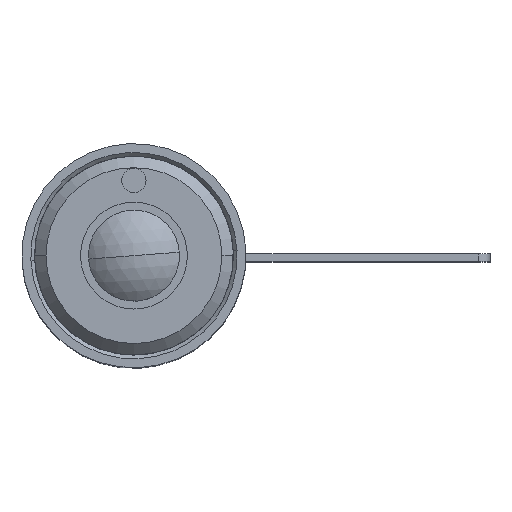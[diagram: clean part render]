
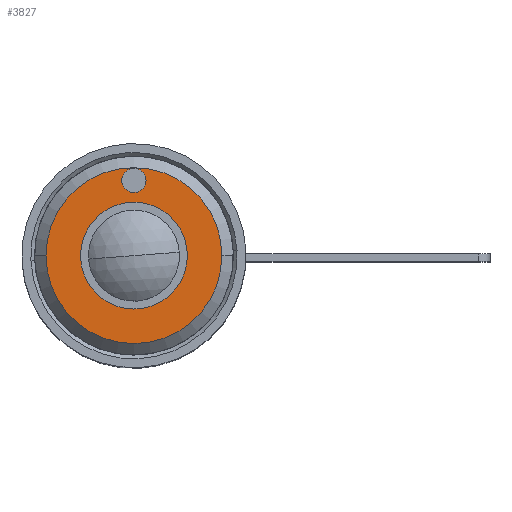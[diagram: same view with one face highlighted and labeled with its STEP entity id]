
A CAD part, top view. The second image highlights one B-rep face of the part: STEP entity #3827.
In plain terms, the highlighted planar face has unit normal (0, 0, 1).
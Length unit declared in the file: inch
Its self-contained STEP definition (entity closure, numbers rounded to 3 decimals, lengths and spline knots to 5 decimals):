
#133 = CARTESIAN_POINT ( 'NONE',  ( -0.09189, -0.00784, 0.26632 ) ) ;
#366 = DIRECTION ( 'NONE',  ( 1., 0., 0. ) ) ;
#486 = AXIS2_PLACEMENT_3D ( 'NONE', #7068, #6470, #4168 ) ;
#561 = AXIS2_PLACEMENT_3D ( 'NONE', #133, #2948, #2347 ) ;
#729 = ORIENTED_EDGE ( 'NONE', *, *, #5338, .T. ) ;
#786 = ORIENTED_EDGE ( 'NONE', *, *, #8636, .T. ) ;
#979 = CARTESIAN_POINT ( 'NONE',  ( -0.09189, -0.00784, 0.26632 ) ) ;
#1018 = CARTESIAN_POINT ( 'NONE',  ( -0.09189, 0.18716, 0.26632 ) ) ;
#1083 = CARTESIAN_POINT ( 'NONE',  ( -0.06039, 0.18716, 0.26632 ) ) ;
#1087 = EDGE_CURVE ( 'NONE', #1424, #1233, #5422, .T. ) ;
#1233 = VERTEX_POINT ( 'NONE', #7504 ) ;
#1343 = AXIS2_PLACEMENT_3D ( 'NONE', #2327, #8074, #3120 ) ;
#1409 = DIRECTION ( 'NONE',  ( 1., 0., 0. ) ) ;
#1424 = VERTEX_POINT ( 'NONE', #1083 ) ;
#1595 = ORIENTED_EDGE ( 'NONE', *, *, #1087, .F. ) ;
#1872 = CIRCLE ( 'NONE', #6929, 0.1385 ) ;
#1936 = DIRECTION ( 'NONE',  ( 1., 0., 0. ) ) ;
#2260 = EDGE_LOOP ( 'NONE', ( #1595, #2395 ) ) ;
#2327 = CARTESIAN_POINT ( 'NONE',  ( -0.09189, 0.18716, 0.26632 ) ) ;
#2347 = DIRECTION ( 'NONE',  ( 1., 0., 0. ) ) ;
#2395 = ORIENTED_EDGE ( 'NONE', *, *, #7958, .F. ) ;
#2679 = FACE_BOUND ( 'NONE', #3020, .T. ) ;
#2785 = CARTESIAN_POINT ( 'NONE',  ( -0.09189, -0.00784, 0.26632 ) ) ;
#2846 = AXIS2_PLACEMENT_3D ( 'NONE', #979, #3155, #8765 ) ;
#2944 = ORIENTED_EDGE ( 'NONE', *, *, #3706, .F. ) ;
#2948 = DIRECTION ( 'NONE',  ( 0., 0., 1. ) ) ;
#3020 = EDGE_LOOP ( 'NONE', ( #6932, #2944 ) ) ;
#3120 = DIRECTION ( 'NONE',  ( 1., 0., 0. ) ) ;
#3155 = DIRECTION ( 'NONE',  ( 0., 0., 1. ) ) ;
#3159 = CIRCLE ( 'NONE', #2846, 0.228 ) ;
#3178 = AXIS2_PLACEMENT_3D ( 'NONE', #6191, #5491, #1936 ) ;
#3706 = EDGE_CURVE ( 'NONE', #3871, #6637, #1872, .T. ) ;
#3827 = ADVANCED_FACE ( 'NONE', ( #4034, #9086, #2679 ), #4692, .T. ) ;
#3871 = VERTEX_POINT ( 'NONE', #8903 ) ;
#3908 = CARTESIAN_POINT ( 'NONE',  ( 0.13611, -0.00784, 0.26632 ) ) ;
#3919 = EDGE_CURVE ( 'NONE', #6637, #3871, #8530, .T. ) ;
#4034 = FACE_BOUND ( 'NONE', #2260, .T. ) ;
#4168 = DIRECTION ( 'NONE',  ( 1., 0., 0. ) ) ;
#4211 = AXIS2_PLACEMENT_3D ( 'NONE', #1018, #6740, #366 ) ;
#4295 = CARTESIAN_POINT ( 'NONE',  ( 0.04661, -0.00784, 0.26632 ) ) ;
#4460 = CIRCLE ( 'NONE', #1343, 0.0315 ) ;
#4573 = CIRCLE ( 'NONE', #561, 0.228 ) ;
#4692 = PLANE ( 'NONE',  #3178 ) ;
#5338 = EDGE_CURVE ( 'NONE', #7711, #8337, #3159, .T. ) ;
#5422 = CIRCLE ( 'NONE', #4211, 0.0315 ) ;
#5491 = DIRECTION ( 'NONE',  ( 0., 0., 1. ) ) ;
#5503 = EDGE_LOOP ( 'NONE', ( #786, #729 ) ) ;
#6079 = CARTESIAN_POINT ( 'NONE',  ( -0.31989, -0.00784, 0.26632 ) ) ;
#6191 = CARTESIAN_POINT ( 'NONE',  ( -0.09189, -0.00784, 0.26632 ) ) ;
#6470 = DIRECTION ( 'NONE',  ( 0., 0., 1. ) ) ;
#6637 = VERTEX_POINT ( 'NONE', #4295 ) ;
#6740 = DIRECTION ( 'NONE',  ( 0., 0., 1. ) ) ;
#6929 = AXIS2_PLACEMENT_3D ( 'NONE', #2785, #7788, #1409 ) ;
#6932 = ORIENTED_EDGE ( 'NONE', *, *, #3919, .F. ) ;
#7068 = CARTESIAN_POINT ( 'NONE',  ( -0.09189, -0.00784, 0.26632 ) ) ;
#7504 = CARTESIAN_POINT ( 'NONE',  ( -0.12339, 0.18716, 0.26632 ) ) ;
#7711 = VERTEX_POINT ( 'NONE', #3908 ) ;
#7788 = DIRECTION ( 'NONE',  ( 0., 0., 1. ) ) ;
#7958 = EDGE_CURVE ( 'NONE', #1233, #1424, #4460, .T. ) ;
#8074 = DIRECTION ( 'NONE',  ( 0., 0., 1. ) ) ;
#8337 = VERTEX_POINT ( 'NONE', #6079 ) ;
#8530 = CIRCLE ( 'NONE', #486, 0.1385 ) ;
#8636 = EDGE_CURVE ( 'NONE', #8337, #7711, #4573, .T. ) ;
#8765 = DIRECTION ( 'NONE',  ( 1., 0., 0. ) ) ;
#8903 = CARTESIAN_POINT ( 'NONE',  ( -0.23039, -0.00784, 0.26632 ) ) ;
#9086 = FACE_OUTER_BOUND ( 'NONE', #5503, .T. ) ;
